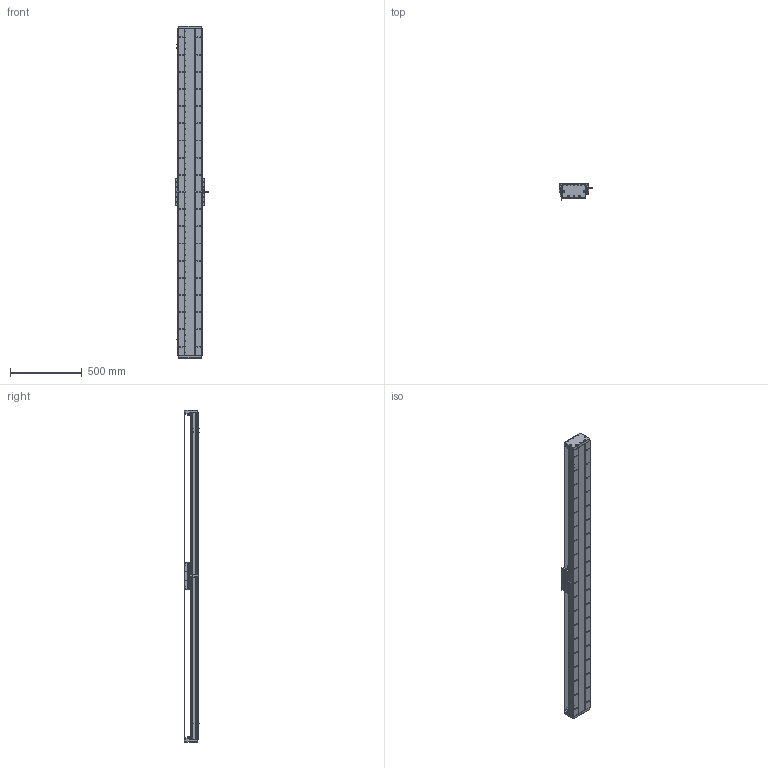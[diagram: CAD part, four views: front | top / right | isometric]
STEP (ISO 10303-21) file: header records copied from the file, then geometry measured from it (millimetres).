
FILE_DESCRIPTION (( 'STEP AP203' ), '1' );
FILE_NAME ('DA-C165-C2-T2040-C010-0.2 直线电机.STEP', '2023-05-11T07:45:05', ( '微软用户' ), ( '微软中国' ), 'SwSTEP 2.0', 'SolidWorks 2019', '' );
FILE_SCHEMA (( 'CONFIG_CONTROL_DESIGN' ));
Length unit declared in the file: millimetre
Products named in the file (18): 珨极趙賑雄怢啣wf-C2; 葩璃 CKM01-W075-TRL^DA-C165-C2-T-C010-0.2-N 眻盄萇儂; DA-C165-C2-T2040-C010-0.2 眻盄萇儂; 复件 DA165-GDYK-00 钢带压块^复件 CU165钢带组件_DA-C165-C2-T-C010-0.2-N 直线电机; 复件 六角薄螺母 M3^DA-C165-C2-T-C010-0.2-N 直线电机_GB_FASTENER_NUT_STNAB M3-C; 葩璃 PM-T45^DA-C165-C2-T-C010-0.2-N 眻盄萇儂; 复件 DA95-HXJ-00 缓冲橡胶^DA-C165-C2-T-C010-0.2-N 直线电机; 复件 DA165-GDLK-00 钢带拉块^复件 CU165钢带组件_DA-C165-C2-T-C010-0.2-N 直线电机; 复件 XD-U-02L 磁栅尺^DA-C165-C2-T-C010-0.2-N 直线电机_T; 复件 DMA-010-0.2 读数头^DA-C165-C2-T-C010-0.2-N 直线电机; 复件 DA165-GD-DG-H-00 端盖^复件 CU165钢带组件_DA-C165-C2-T-C010-0.2-N 直线电机; 复件 CU165钢带组件^DA-C165-C2-T-C010-0.2-N 直线电机; IU-CU165-L-00 菁釱_L2280; 复件 DA165-GYP-00 光电感应片^DA-C165-C2-T-C010-0.2-N 直线电机; IU-CU165-L 菁釱絳寢; 复件 CKM02-W075-C1C2-TP-3.0 一体电机-C2^DA-C165-C2-T-C010-0.2-N 直线电机; 复件 DA165-GD-1860-002-00 钢带盖板^复件 CU165钢带组件_DA-C165-C2-T-C010-0.2-N 直线电机; 葩璃 DA95-GT-T-00^IU-CU165-L 菁釱絳寢_T
Assembly tree (33 placements, depth 3):
  DA-C165-C2-T2040-C010-0.2 眻盄萇儂
    IU-CU165-L 菁釱絳寢
      IU-CU165-L-00 菁釱_L2280
      葩璃 DA95-GT-T-00^IU-CU165-L 菁釱絳寢_T  x4
    复件 XD-U-02L 磁栅尺^DA-C165-C2-T-C010-0.2-N 直线电机_T
    葩璃 PM-T45^DA-C165-C2-T-C010-0.2-N 眻盄萇儂  x3
    葩璃 CKM01-W075-TRL^DA-C165-C2-T-C010-0.2-N 眻盄萇儂
    复件 CU165钢带组件^DA-C165-C2-T-C010-0.2-N 直线电机
      复件 DA165-GD-DG-H-00 端盖^复件 CU165钢带组件_DA-C165-C2-T-C010-0.2-N 直线电机  x2
      复件 DA165-GDYK-00 钢带压块^复件 CU165钢带组件_DA-C165-C2-T-C010-0.2-N 直线电机  x2
      复件 DA165-GD-1860-002-00 钢带盖板^复件 CU165钢带组件_DA-C165-C2-T-C010-0.2-N 直线电机
      复件 DA165-GDLK-00 钢带拉块^复件 CU165钢带组件_DA-C165-C2-T-C010-0.2-N 直线电机  x2
    复件 DA95-HXJ-00 缓冲橡胶^DA-C165-C2-T-C010-0.2-N 直线电机  x4
    复件 DA165-GYP-00 光电感应片^DA-C165-C2-T-C010-0.2-N 直线电机
    复件 DMA-010-0.2 读数头^DA-C165-C2-T-C010-0.2-N 直线电机
    复件 CKM02-W075-C1C2-TP-3.0 一体电机-C2^DA-C165-C2-T-C010-0.2-N 直线电机
    复件 六角薄螺母 M3^DA-C165-C2-T-C010-0.2-N 直线电机_GB_FASTENER_NUT_STNAB M3-C  x6
    珨极趙賑雄怢啣wf-C2
Bounding box: 233 x 111.45 x 2320 mm (x, y, z)
Volume: 13148964.1 mm3; surface area: 3927211 mm2
Topology: 70 solids, 70 shells, 3727 faces, 10817 edges, 6893 vertices
Faces by surface type: cylinder 2157, plane 1090, cone 430, torus 46, sphere 4
Entity records: 123197 total; most frequent: CARTESIAN_POINT 32609, ORIENTED_EDGE 18806, DIRECTION 18277, EDGE_CURVE 9403, AXIS2_PLACEMENT_3D 6973, VERTEX_POINT 6129, VECTOR 4331, LINE 4331
